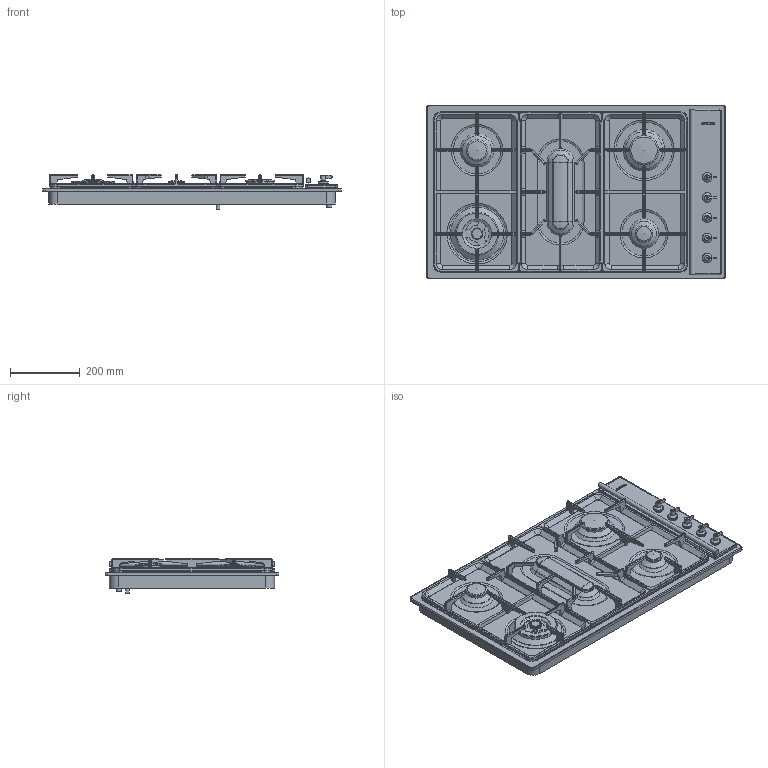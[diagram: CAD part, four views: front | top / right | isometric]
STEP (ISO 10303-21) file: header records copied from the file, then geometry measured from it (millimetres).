
FILE_DESCRIPTION(/* description */ (''),/* implementation_level */ '2;1');
FILE_NAME(/* name */ 'piano se93sgh3.stp',/* time_stamp */ '2018-11-19T09:24:26+01:00',/* author */ (''),/* organization */ (''),/* preprocessor_version */ 'ST-DEVELOPER v16',/* originating_system */ 'SIEMENS PLM Software NX 11.0',/* authorisation */ '');
FILE_SCHEMA (('AUTOMOTIVE_DESIGN { 1 0 10303 214 3 1 1 1 }'));
Length unit declared in the file: millimetre
Products named in the file (1): gobb2F683758fjlw
Bounding box: 858 x 500 x 99 mm (x, y, z)
Volume: 17608214.9 mm3; surface area: 2533139.3 mm2
Topology: 42 solids, 42 shells, 1457 faces, 3520 edges, 2164 vertices
Faces by surface type: plane 637, cylinder 515, bspline 96, torus 73, cone 71, sphere 54, extrusion 11
Full cylindrical faces by diameter (mm): 1 x4, 3 x4, 3.37 x6, 3.7 x4, 4 x2, 4.3 x4, 5 x7, 7 x4, 10 x5, 14 x8, 15 x5, 20 x5, 21.4 x5, 23 x1, 23.5 x1, 28 x6, 32 x1, 42 x1, 43 x1, 50 x1, 55 x1, 56 x1, 70.5 x1, 77.5 x1, 78.5 x1, 79.5 x1, 83 x1, 85 x1, 89.5 x1, 90 x1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
Entity records: 42990 total; most frequent: CARTESIAN_POINT 9361, DIRECTION 7185, ORIENTED_EDGE 6534, EDGE_CURVE 3267, AXIS2_PLACEMENT_3D 2631, VERTEX_POINT 2080, VECTOR 1923, LINE 1912
